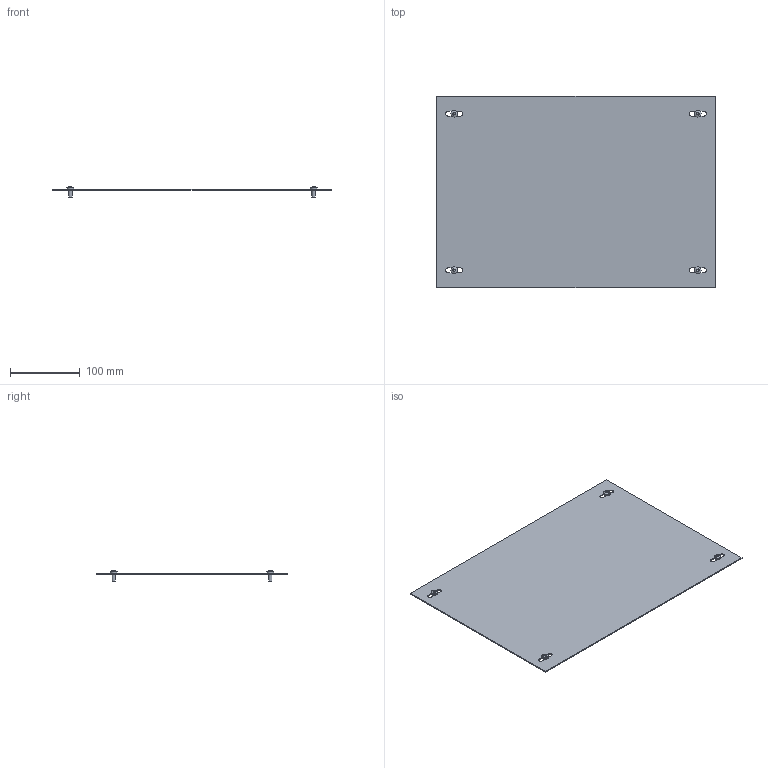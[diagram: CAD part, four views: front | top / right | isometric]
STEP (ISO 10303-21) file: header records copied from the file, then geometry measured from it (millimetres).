
FILE_DESCRIPTION(('Open CASCADE Model'),'2;1');
FILE_NAME('Open CASCADE Shape Model','2025-03-28T17:53:16',('Author'),( 'Open CASCADE'),'Open CASCADE STEP processor 7.8','Open CASCADE 7.8' ,'Unknown');
FILE_SCHEMA(('AUTOMOTIVE_DESIGN { 1 0 10303 214 1 1 1 1 }'));
Length unit declared in the file: millimetre
Products named in the file (3): Compound1; Solid1; Solid2
Assembly tree (5 placements, depth 2):
  Compound1
    Solid1
    Solid2  x4
Bounding box: 400 x 275 x 15.56 mm (x, y, z)
Volume: 165775.7 mm3; surface area: 222842.5 mm2
Topology: 5 solids, 5 shells, 86 faces, 180 edges, 108 vertices
Faces by surface type: plane 46, cylinder 16, torus 8, cone 8, sphere 4, bspline 4
Full cylindrical faces by diameter (mm): 5 x4, 9.5 x4
Entity records: 1508 total; most frequent: CARTESIAN_POINT 562, DIRECTION 190, ORIENTED_EDGE 178, EDGE_CURVE 89, AXIS2_PLACEMENT_3D 73, VERTEX_POINT 57, FACE_BOUND 48, EDGE_LOOP 48
